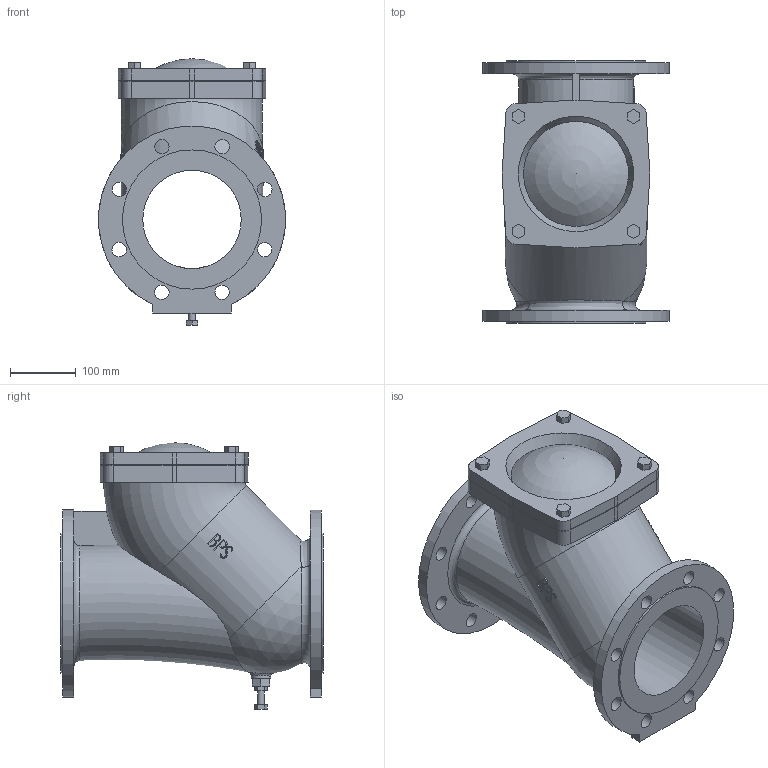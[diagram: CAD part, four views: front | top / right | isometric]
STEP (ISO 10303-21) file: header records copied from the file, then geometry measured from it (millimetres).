
FILE_DESCRIPTION( ( 'Unknown' ), '1' );
FILE_NAME( 'J:/Muud/ROOTSI BPS 3D vidinad/Kuuliga tagasiloogiklapid/STEP formaat/BPS 6538150 ball check valve DN150.stp', 'Unknown', ( 'Unknown' ), ( 'Unknown' ), 'PSStep 10.1', 'Unknown', ' ' );
FILE_SCHEMA( ( 'AUTOMOTIVE_DESIGN { 1 0 10303 214 1 1 1 1 }' ) );
Length unit declared in the file: millimetre
Products named in the file (2): 1; 2
Bounding box: 285 x 400 x 405.8 mm (x, y, z)
Volume: 11906451.7 mm3; surface area: 881068.6 mm2
Topology: 2 solids, 2 shells, 319 faces, 821 edges, 548 vertices
Faces by surface type: plane 173, cylinder 74, bspline 65, torus 4, sphere 2, cone 1
Full cylindrical faces by diameter (mm): 10 x1, 13 x8, 17.294 x1, 22 x16, 30 x1, 150 x1, 212 x2, 285 x1
Entity records: 25572 total; most frequent: CARTESIAN_POINT 16345, ORIENTED_EDGE 1514, DIRECTION 971, EDGE_CURVE 757, VERTEX_POINT 525, EDGE_LOOP 444, B_SPLINE_CURVE_WITH_KNOTS 419, AXIS2_PLACEMENT_3D 377
